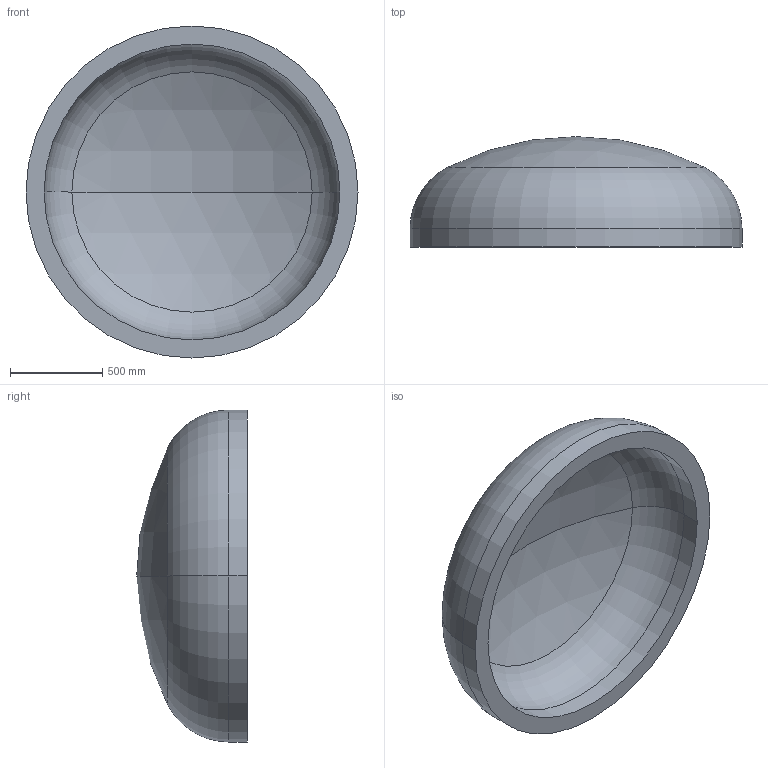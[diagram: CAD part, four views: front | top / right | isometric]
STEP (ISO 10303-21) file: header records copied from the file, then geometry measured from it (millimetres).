
FILE_DESCRIPTION (( 'STEP AP203' ), '1' );
FILE_NAME ('DIN 28013 Korbbogenform_-_Boden DIN 28013 - 1800 x 100 - I - s=98.step', '2016-07-01T12:44:55', ( '' ), ( '' ), 'SwSTEP 2.0', 'SolidWorks 2013', '' );
FILE_SCHEMA (( 'CONFIG_CONTROL_DESIGN' ));
Length unit declared in the file: millimetre
Products named in the file (1): DIN 28013 Korbbogenform_-_Boden DIN 28013 - 1800 x 100 - I - s=98
Bounding box: 1800 x 599.01 x 1800 mm (x, y, z)
Volume: 374005035.7 mm3; surface area: 8176873.5 mm2
Topology: 1 solids, 1 shells, 13 faces, 24 edges, 14 vertices
Faces by surface type: torus 4, cylinder 4, sphere 4, plane 1
Entity records: 407 total; most frequent: DIRECTION 72, CARTESIAN_POINT 52, ORIENTED_EDGE 48, AXIS2_PLACEMENT_3D 34, EDGE_CURVE 24, CIRCLE 20, EDGE_LOOP 14, VERTEX_POINT 14
